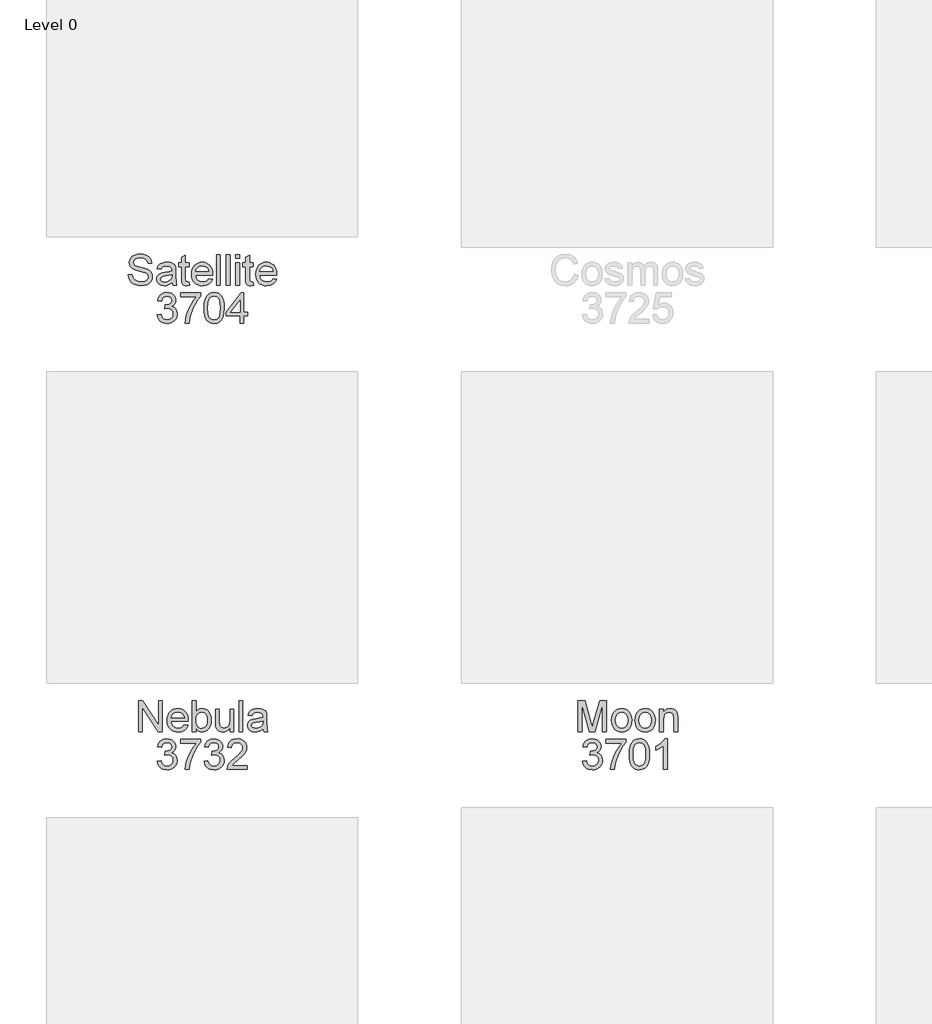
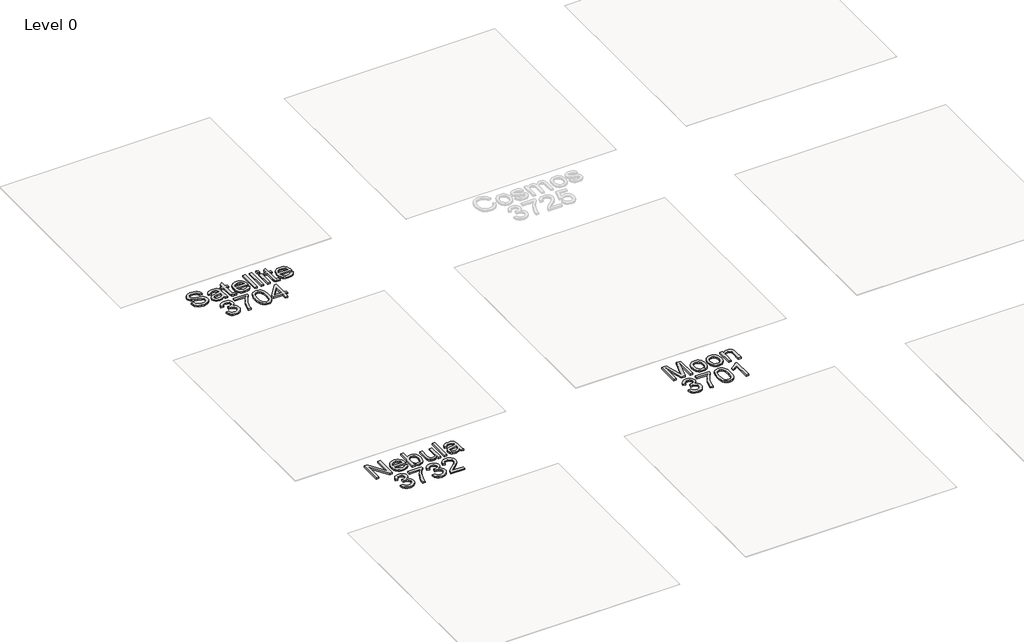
# One storey, part 3 of 14: 3 proxies.
"""IFC4 building model written with IfcOpenShell, lengths in millimetres."""

import ifcopenshell
import ifcopenshell.guid

model = None  # the IFC model being written
_history = None  # IfcOwnerHistory: only IFC2X3 demands one
_inside = {}  # id of a spatial element -> (the spatial element, [elements in it])
_under = {}  # id of a project, library or spatial element -> (it, [spatial elements below it])
_declared = {}  # id of a project -> (the project, [libraries it declares])
_typed = {}  # id of a type object -> (the type object, [elements of that type])
_made_of = {}  # id of a material, layer set ... -> (it, [elements and type objects made of it])


def new_model(schema):
    """Start an empty IFC model of exactly this schema.

    Asked for "IFC4X3", IfcOpenShell would pick the latest addendum, in which some entities
    have other attributes; the version numbers below select the first issue.
    IFC2X3 requires an IfcOwnerHistory on every rooted entity: one is made here for all.
    """
    global model, _history
    if schema == "IFC4X3":
        model = ifcopenshell.file(schema_version=(4, 3, 0, 0))
    else:
        model = ifcopenshell.file(schema=schema)
    _inside.clear()
    _under.clear()
    _declared.clear()
    _typed.clear()
    _made_of.clear()
    _history = None
    if model.schema == "IFC2X3":
        org = make("IfcOrganization", Name="unknown")
        user = make(
            "IfcPersonAndOrganization",
            ThePerson=make("IfcPerson", FamilyName="unknown"),
            TheOrganization=org,
        )
        app = make(
            "IfcApplication",
            ApplicationDeveloper=org,
            Version="unknown",
            ApplicationFullName="unknown",
            ApplicationIdentifier="unknown",
        )
        _history = make(
            "IfcOwnerHistory",
            OwningUser=user,
            OwningApplication=app,
            ChangeAction="ADDED",
            CreationDate=0,
        )
    return model


def make(cls, **values):
    """One entity of the class cls with the attributes given. An attribute that is None is left unset."""
    return model.create_entity(
        cls, **{name: value for name, value in values.items() if value is not None}
    )


def rooted(cls, **values):
    """An entity with a GlobalId (a new one), such as an element, a storey or a relation."""
    return make(cls, GlobalId=ifcopenshell.guid.new(), OwnerHistory=_history, **values)


def si_unit(unit_type, name, prefix=None):
    """IfcSIUnit, for example si_unit("LENGTHUNIT", "METRE", prefix="MILLI")."""
    return make("IfcSIUnit", UnitType=unit_type, Prefix=prefix, Name=name)


def assignment(units):
    """IfcUnitAssignment: the units of a project."""
    return None if units is None else make("IfcUnitAssignment", Units=units)


def point(xyz):
    """IfcCartesianPoint."""
    return None if xyz is None else make("IfcCartesianPoint", Coordinates=xyz)


def direction(xyz):
    """IfcDirection."""
    return None if xyz is None else make("IfcDirection", DirectionRatios=xyz)


def frame(location, z_axis=None, x_axis=None):
    """IfcAxis2Placement3D, a coordinate frame: its origin and axes. An axis left out is left unset."""
    return make(
        "IfcAxis2Placement3D",
        Location=point(location),
        Axis=direction(z_axis),
        RefDirection=direction(x_axis),
    )


def origin():
    """The frame at (0, 0, 0) with its axes left unset."""
    return frame((0.0, 0.0, 0.0))


def origin_with_axes():
    """The frame at (0, 0, 0) with the z axis (0, 0, 1) and the x axis (1, 0, 0) written out."""
    return frame((0.0, 0.0, 0.0), z_axis=(0.0, 0.0, 1.0), x_axis=(1.0, 0.0, 0.0))


def place(relative_to, where):
    """IfcLocalPlacement: puts the frame where relative to a parent placement (None: the world)."""
    return make(
        "IfcLocalPlacement", PlacementRelTo=relative_to, RelativePlacement=where
    )


def context(
    kind, dimensions, precision=None, world=None, true_north=None, identifier=None
):
    """IfcGeometricRepresentationContext, for example the 3D "Model" context."""
    return make(
        "IfcGeometricRepresentationContext",
        ContextIdentifier=identifier,
        ContextType=kind,
        CoordinateSpaceDimension=dimensions,
        Precision=precision,
        WorldCoordinateSystem=world,
        TrueNorth=true_north,
    )


def project(units=None, contexts=None):
    """IfcProject with its units and contexts."""
    return rooted(
        "IfcProject",
        Name="project",
        RepresentationContexts=contexts,
        UnitsInContext=assignment(units),
    )


def spatial(cls, under=None, at=None, **own):
    """A site, building, storey or space (cls), placed at a placement, below another one or the project."""
    s = rooted(cls, ObjectPlacement=at, **own)
    if under is not None:
        _under.setdefault(under.id(), (under, []))[1].append(s)
    return s


def polyline(points):
    """IfcPolyline through the points."""
    return make("IfcPolyline", Points=[point(p) for p in points])


def outline(outer, holes=None, kind="AREA"):
    """IfcArbitraryClosedProfileDef: a profile drawn as a closed curve; with holes, ...WithVoids."""
    if holes is None:
        return make("IfcArbitraryClosedProfileDef", ProfileType=kind, OuterCurve=outer)
    return make(
        "IfcArbitraryProfileDefWithVoids",
        ProfileType=kind,
        OuterCurve=outer,
        InnerCurves=holes,
    )


def extrude(swept, where, along, depth):
    """IfcExtrudedAreaSolid: the profile swept, set in the frame where, extruded along a direction by depth."""
    return make(
        "IfcExtrudedAreaSolid",
        SweptArea=swept,
        Position=where,
        ExtrudedDirection=direction(along),
        Depth=depth,
    )


def shape(context_of_items, identifier, shape_type, items):
    """IfcShapeRepresentation: the items that make up one representation, for example the "Body"."""
    return make(
        "IfcShapeRepresentation",
        ContextOfItems=context_of_items,
        RepresentationIdentifier=identifier,
        RepresentationType=shape_type,
        Items=items,
    )


def made_of(thing, what):
    """Note that an element or type object is made of a material, layer set ...; save() writes the relation."""
    if what is not None:
        _made_of.setdefault(what.id(), (what, []))[1].append(thing)
    return thing


def element(
    cls,
    number,
    at=None,
    inside=None,
    cuts=None,
    type_object=None,
    material=None,
    context=None,
    identifier="Body",
    shape_type=None,
    held_by="IfcProductDefinitionShape",
    body=None,
    shapes=None,
    **own,
):
    """One element of the class cls, such as IfcWall. Its Tag is "e" and its number.

    at: its placement. inside: the storey or other place that contains it. cuts: it is an
    opening in that element (IfcRelVoidsElement). A single representation is given by context,
    identifier, shape_type and body (its items); several are given by shapes. held_by: the class
    of the entity that holds the representations. save() writes the other relations.
    """
    e = rooted(cls, Tag="e%d" % number, ObjectPlacement=at, **own)
    if body is not None:
        shapes = [shape(context, identifier, shape_type, body)]
    if shapes is not None:
        e.Representation = make(held_by, Representations=shapes)
    if inside is not None:
        _inside.setdefault(inside.id(), (inside, []))[1].append(e)
    if cuts is not None:
        rooted(
            "IfcRelVoidsElement", RelatingBuildingElement=cuts, RelatedOpeningElement=e
        )
    if type_object is not None:
        _typed.setdefault(type_object.id(), (type_object, []))[1].append(e)
    return made_of(e, material)


def aggregate(whole, parts):
    """IfcRelAggregates: a whole, such as a stair, and the parts it consists of."""
    return rooted("IfcRelAggregates", RelatingObject=whole, RelatedObjects=parts)


def save(model, path):
    """Write the relations noted so far, then the file.

    IfcRelAggregates (storeys below a building ...), IfcRelContainedInSpatialStructure (elements
    in a storey), IfcRelDefinesByType, IfcRelAssociatesMaterial and IfcRelDeclares: one each for
    every whole, place, type object, material and project.
    """
    for whole, parts in _under.values():
        aggregate(whole, parts)
    for where, things in _inside.values():
        rooted(
            "IfcRelContainedInSpatialStructure",
            RelatedElements=things,
            RelatingStructure=where,
        )
    for kind, things in _typed.values():
        rooted("IfcRelDefinesByType", RelatedObjects=things, RelatingType=kind)
    for what, things in _made_of.values():
        rooted("IfcRelAssociatesMaterial", RelatedObjects=things, RelatingMaterial=what)
    for by, libraries in _declared.values():
        rooted("IfcRelDeclares", RelatingContext=by, RelatedDefinitions=libraries)
    model.write(path)


model = new_model("IFC4")

# Units and contexts
model_context = context("Model", 3, world=origin())
ifc_project = project(units=[si_unit("LENGTHUNIT", "METRE", prefix="MILLI")], contexts=[model_context])

# Site, building, storey
site = spatial("IfcSite", under=ifc_project)
building = spatial("IfcBuilding", under=site)
storey = spatial("IfcBuildingStorey", under=building, Name="Level 0", Elevation=0.0)

# Proxies
placement = place(None, origin())
element("IfcBuildingElementProxy", 1, Name="300mm Arial", ObjectType="300mm Arial", at=placement, inside=storey, context=model_context, shape_type="SweptSolid", body=[
    extrude(outline(polyline([(-8663.1137264, -10635.6345563), (-8626.1906494, -10635.6345563), (-8621.9538706, -10656.12434), (-8614.291611, -10672.5936909), (-8602.338486, -10685.6646044), (-8585.229111, -10695.9590755), (-8564.3156494, -10702.638763), (-8540.9502648, -10704.8653255), (-8520.3793514, -10703.1796284), (-8502.368534, -10698.1225371), (-8487.7741831, -10690.1177294), (-8477.4526687, -10679.5888832), (-8471.3138465, -10667.5005419), (-8469.2675725, -10654.8172486), (-8470.8000244, -10642.4584746), (-8475.3973802, -10631.7763832), (-8484.7363225, -10622.6628015), (-8500.493534, -10615.0095563), (-8554.2555533, -10600.9109986), (-8589.5470196, -10591.5810707), (-8612.1281494, -10582.701864), (-8630.5085581, -10570.279989), (-8643.5343994, -10555.2259025), (-8651.2958177, -10537.8641236), (-8653.8829571, -10518.5191717), (-8650.6828369, -10496.8935707), (-8641.0824764, -10476.7283063), (-8625.3342792, -10459.6369602), (-8603.6906494, -10447.233114), (-8577.7110821, -10439.6880419), (-8548.9550725, -10437.1730179), (-8517.8012264, -10439.8052294), (-8490.541611, -10447.701864), (-8468.149784, -10460.7006621), (-8451.5993033, -10478.639364), (-8441.1245437, -10500.4001813), (-8436.9598802, -10524.8653255), (-8473.8829571, -10524.8653255), (-8480.6618033, -10502.8340755), (-8494.7964187, -10486.9326332), (-8516.8817552, -10477.3052294), (-8547.5127648, -10474.0960948), (-8578.8649283, -10477.2691717), (-8600.3733417, -10486.7884025), (-8612.8132456, -10500.7968159), (-8616.9598802, -10517.4374409), (-8614.0211783, -10531.6261429), (-8605.2050725, -10543.0384025), (-8584.3637264, -10553.2427294), (-8544.916611, -10563.6634025), (-8479.5800725, -10582.1970563), (-8458.5313946, -10595.592489), (-8443.8468994, -10612.1249409), (-8435.2200965, -10631.6141236), (-8432.3444956, -10653.8797486), (-8435.6527889, -10676.6411669), (-8445.5776687, -10698.0504217), (-8461.713486, -10716.4759025), (-8483.6545917, -10730.2859986), (-8510.0398081, -10738.9128015), (-8539.5079571, -10741.7884025), (-8575.6828369, -10738.6874409), (-8605.4574764, -10729.3845563), (-8629.1744235, -10713.8436909), (-8647.1762264, -10692.0287871), (-8658.7327167, -10665.4542679), (-8663.1137264, -10635.6345563)])), origin_with_axes(), (0.0, 0.0, 1.0), 20.0),
    extrude(outline(polyline([(-8243.1137264, -10709.4807102), (-8260.7549523, -10724.6069121), (-8278.9190148, -10734.5047486), (-8298.0205773, -10739.967489), (-8318.4743033, -10741.7884025), (-8349.3306735, -10737.4073929), (-8372.0920917, -10724.264364), (-8386.1275485, -10704.3064313), (-8390.806034, -10679.4807102), (-8389.0392071, -10664.1742198), (-8383.7387264, -10650.2739794), (-8375.5626446, -10638.3749409), (-8365.1690148, -10629.0720563), (-8339.3156494, -10616.9566717), (-8307.368534, -10611.4037871), (-8269.6161302, -10605.5624409), (-8243.3300725, -10598.7114794), (-8243.1137264, -10590.4903255), (-8245.6557937, -10574.0119602), (-8253.2819956, -10563.2307102), (-8270.337284, -10555.2259025), (-8294.0993033, -10552.5576332), (-8316.0944956, -10554.3334746), (-8331.4550725, -10559.6609986), (-8341.9298321, -10569.513763), (-8349.2675725, -10584.8653255), (-8386.1906494, -10580.2499409), (-8379.7813946, -10560.0576332), (-8370.2170917, -10544.1922486), (-8356.6053129, -10532.0588352), (-8338.0536302, -10523.0624409), (-8315.3643273, -10517.4915275), (-8289.3396879, -10515.6345563), (-8264.3787504, -10517.2751813), (-8244.5920917, -10522.1970563), (-8229.6732215, -10529.5978977), (-8219.3156494, -10538.6754217), (-8212.446659, -10549.8983784), (-8207.993534, -10563.7355179), (-8206.1906494, -10596.0432102), (-8206.1906494, -10641.9807102), (-8204.3156494, -10706.1273448), (-8196.9598802, -10737.1730179), (-8233.8829571, -10737.1730179), (-8243.1137264, -10709.4807102)]), holes=[polyline([(-8243.1137264, -10635.6345563), (-8302.681034, -10646.9566717), (-8334.447861, -10652.9422486), (-8348.8348802, -10662.6778255), (-8353.8829571, -10676.8845563), (-8351.1335581, -10687.8641236), (-8342.885361, -10696.8605179), (-8329.3186542, -10702.8641236), (-8310.6137264, -10704.8653255), (-8290.7819956, -10702.6567919), (-8273.2579571, -10696.0311909), (-8259.0512264, -10686.2685707), (-8249.1714187, -10674.6489794), (-8244.790409, -10662.6778255), (-8243.3300725, -10646.0912871), (-8243.1137264, -10635.6345563)])]), origin_with_axes(), (0.0, 0.0, 1.0), 20.0),
    extrude(outline(polyline([(-8076.9598802, -10706.3797486), (-8072.3444956, -10738.2547486), (-8099.9646879, -10741.7884025), (-8117.6870437, -10740.2559505), (-8130.9021879, -10735.6585948), (-8140.2411302, -10728.5732582), (-8146.3348802, -10719.576864), (-8149.6882456, -10704.1261429), (-8150.806034, -10677.6778255), (-8150.806034, -10557.1730179), (-8178.4983417, -10557.1730179), (-8178.4983417, -10520.2499409), (-8150.806034, -10520.2499409), (-8150.806034, -10467.5335948), (-8113.8829571, -10445.826864), (-8113.8829571, -10520.2499409), (-8076.9598802, -10520.2499409), (-8076.9598802, -10557.1730179), (-8113.8829571, -10557.1730179), (-8113.8829571, -10676.5960948), (-8111.9358417, -10695.6345563), (-8105.6257456, -10702.3773448), (-8093.041611, -10704.8653255), (-8076.9598802, -10706.3797486)])), origin_with_axes(), (0.0, 0.0, 1.0), 20.0),
    extrude(outline(polyline([(-7888.1618033, -10672.5576332), (-7851.9598802, -10677.1730179), (-7865.0037504, -10704.4506621), (-7885.8180533, -10724.8412871), (-7913.9340389, -10737.5516236), (-7948.8829571, -10741.7884025), (-7971.7931134, -10739.9607282), (-7992.2062744, -10734.4777054), (-8010.1224403, -10725.339334), (-8025.541611, -10712.545614), (-8037.9409499, -10696.4526152), (-8046.7976206, -10677.4164073), (-8052.111623, -10655.4369902), (-8053.8829571, -10630.514364), (-8052.0935941, -10604.7466356), (-8046.7255052, -10582.0347967), (-8037.7786903, -10562.3788472), (-8025.2531494, -10545.7787871), (-8009.8745437, -10532.5906861), (-7992.368534, -10523.170614), (-7972.7351206, -10517.5185707), (-7950.9743033, -10515.6345563), (-7929.9143574, -10517.5140635), (-7910.869135, -10523.1525852), (-7893.8386362, -10532.5501212), (-7878.822861, -10545.7066717), (-7866.5654992, -10562.2706741), (-7857.8102408, -10581.8905659), (-7852.5570857, -10604.5663472), (-7850.806034, -10630.2980179), (-7851.0223802, -10640.2499409), (-8016.9598802, -10640.2499409), (-8010.5686542, -10667.8881621), (-7995.7218994, -10688.2066717), (-7974.2946158, -10700.7006621), (-7948.1618033, -10704.8653255), (-7928.510361, -10702.936239), (-7911.9598802, -10697.1489794), (-7898.510361, -10687.1429698), (-7888.1618033, -10672.5576332)]), holes=[polyline([(-8016.9598802, -10603.326864), (-7887.729111, -10603.326864), (-7892.7231014, -10583.8196525), (-7902.5127648, -10569.8653255), (-7924.0392071, -10556.8845563), (-7951.118534, -10552.5576332), (-7976.0073562, -10556.0101573), (-7996.587284, -10566.3677294), (-8010.8931735, -10582.5125611), (-8016.9598802, -10603.326864)])]), origin_with_axes(), (0.0, 0.0, 1.0), 20.0),
    extrude(outline(polyline([(-7813.8829571, -10737.1730179), (-7813.8829571, -10441.7884025), (-7776.9598802, -10441.7884025), (-7776.9598802, -10737.1730179), (-7813.8829571, -10737.1730179)])), origin_with_axes(), (0.0, 0.0, 1.0), 20.0),
    extrude(outline(polyline([(-7721.5752648, -10737.1730179), (-7721.5752648, -10441.7884025), (-7684.6521879, -10441.7884025), (-7684.6521879, -10737.1730179), (-7721.5752648, -10737.1730179)])), origin_with_axes(), (0.0, 0.0, 1.0), 20.0),
    extrude(outline(polyline([(-7629.2675725, -10478.7114794), (-7629.2675725, -10441.7884025), (-7592.3444956, -10441.7884025), (-7592.3444956, -10478.7114794), (-7629.2675725, -10478.7114794)])), origin_with_axes(), (0.0, 0.0, 1.0), 20.0),
    extrude(outline(polyline([(-7629.2675725, -10737.1730179), (-7629.2675725, -10520.2499409), (-7592.3444956, -10520.2499409), (-7592.3444956, -10737.1730179), (-7629.2675725, -10737.1730179)])), origin_with_axes(), (0.0, 0.0, 1.0), 20.0),
    extrude(outline(polyline([(-7458.4983417, -10706.3797486), (-7453.8829571, -10738.2547486), (-7481.5031494, -10741.7884025), (-7499.2255052, -10740.2559505), (-7512.4406494, -10735.6585948), (-7521.7795917, -10728.5732582), (-7527.8733417, -10719.576864), (-7531.2267071, -10704.1261429), (-7532.3444956, -10677.6778255), (-7532.3444956, -10557.1730179), (-7560.0368033, -10557.1730179), (-7560.0368033, -10520.2499409), (-7532.3444956, -10520.2499409), (-7532.3444956, -10467.5335948), (-7495.4214187, -10445.826864), (-7495.4214187, -10520.2499409), (-7458.4983417, -10520.2499409), (-7458.4983417, -10557.1730179), (-7495.4214187, -10557.1730179), (-7495.4214187, -10676.5960948), (-7493.4743033, -10695.6345563), (-7487.1642071, -10702.3773448), (-7474.5800725, -10704.8653255), (-7458.4983417, -10706.3797486)])), origin_with_axes(), (0.0, 0.0, 1.0), 20.0),
    extrude(outline(polyline([(-7269.7002648, -10672.5576332), (-7233.4983417, -10677.1730179), (-7246.5422119, -10704.4506621), (-7267.3565148, -10724.8412871), (-7295.4725004, -10737.5516236), (-7330.4214187, -10741.7884025), (-7353.3315749, -10739.9607282), (-7373.744736, -10734.4777054), (-7391.6609018, -10725.339334), (-7407.0800725, -10712.545614), (-7419.4794114, -10696.4526152), (-7428.3360821, -10677.4164073), (-7433.6500845, -10655.4369902), (-7435.4214187, -10630.514364), (-7433.6320557, -10604.7466356), (-7428.2639667, -10582.0347967), (-7419.3171518, -10562.3788472), (-7406.791611, -10545.7787871), (-7391.4130052, -10532.5906861), (-7373.9069956, -10523.170614), (-7354.2735821, -10517.5185707), (-7332.5127648, -10515.6345563), (-7311.4528189, -10517.5140635), (-7292.4075965, -10523.1525852), (-7275.3770977, -10532.5501212), (-7260.3613225, -10545.7066717), (-7248.1039607, -10562.2706741), (-7239.3487023, -10581.8905659), (-7234.0955473, -10604.5663472), (-7232.3444956, -10630.2980179), (-7232.5608417, -10640.2499409), (-7398.4983417, -10640.2499409), (-7392.1071158, -10667.8881621), (-7377.260361, -10688.2066717), (-7355.8330773, -10700.7006621), (-7329.7002648, -10704.8653255), (-7310.0488225, -10702.936239), (-7293.4983417, -10697.1489794), (-7280.0488225, -10687.1429698), (-7269.7002648, -10672.5576332)]), holes=[polyline([(-7398.4983417, -10603.326864), (-7269.2675725, -10603.326864), (-7274.2615629, -10583.8196525), (-7284.0512264, -10569.8653255), (-7305.5776687, -10556.8845563), (-7332.6569956, -10552.5576332), (-7357.5458177, -10556.0101573), (-7378.1257456, -10566.3677294), (-7392.431635, -10582.5125611), (-7398.4983417, -10603.326864)])]), origin_with_axes(), (0.0, 0.0, 1.0), 20.0),
    extrude(outline(polyline([(-8386.1906494, -11023.326864), (-8349.2675725, -11018.7114794), (-8341.0013465, -11041.9146044), (-8328.8949764, -11057.5816717), (-8312.35351, -11066.5059505), (-8290.7819956, -11069.4807102), (-8265.4694956, -11065.3881621), (-8245.9262264, -11053.1105179), (-8233.432236, -11034.7932102), (-8229.2675725, -11012.5816717), (-8233.3961783, -10991.4969361), (-8245.7819956, -10974.3965755), (-8264.5319956, -10963.0654457), (-8287.7531494, -10959.2884025), (-8313.6425725, -10963.326864), (-8309.5319956, -10926.4037871), (-8303.618534, -10926.8364794), (-8281.4971398, -10924.186239), (-8261.7194956, -10916.2355179), (-8247.7651687, -10902.7859986), (-8243.1137264, -10883.639364), (-8246.4851206, -10867.6928496), (-8256.5993033, -10854.7571525), (-8272.0319956, -10846.1844361), (-8291.3589187, -10843.326864), (-8310.7218994, -10846.2114794), (-8326.5512264, -10854.8653255), (-8338.1077167, -10869.2884025), (-8344.6521879, -10889.4807102), (-8381.5752648, -10884.8653255), (-8370.7038706, -10851.7102775), (-8351.3589187, -10826.9566717), (-8324.8925725, -10811.5420082), (-8292.6569956, -10806.4037871), (-8269.4448562, -10808.93684), (-8248.1257456, -10816.5359986), (-8230.150986, -10828.5251813), (-8216.9718994, -10844.2283063), (-8208.8859619, -10862.3202534), (-8206.1906494, -10881.4759025), (-8208.7507456, -10899.3244602), (-8216.431034, -10915.514364), (-8229.1233417, -10929.3064313), (-8246.7194956, -10939.9614794), (-8223.6065148, -10949.3004217), (-8206.479111, -10965.201864), (-8195.8781494, -10986.8004217), (-8192.3444956, -11013.2307102), (-8194.1113225, -11031.9626813), (-8199.4118033, -11049.2162871), (-8208.2459379, -11064.9915275), (-8220.6137264, -11079.2884025), (-8235.6813345, -11091.1513832), (-8252.6149283, -11099.6249409), (-8271.4145076, -11104.7090755), (-8292.0800725, -11106.4037871), (-8327.7771879, -11100.6165275), (-8343.1377648, -11093.3824529), (-8356.8396879, -11083.2547486), (-8368.3285701, -11070.8283664), (-8377.0500244, -11056.6982582), (-8386.1906494, -11023.326864)])), origin_with_axes(), (0.0, 0.0, 1.0), 20.0),
    extrude(outline(polyline([(-8160.0368033, -10847.9422486), (-8160.0368033, -10811.0191717), (-7966.1906494, -10811.0191717), (-7966.1906494, -10840.8749409), (-7993.8198562, -10875.841888), (-8021.1786302, -10920.3100371), (-8045.3102408, -10970.2228977), (-8063.2579571, -11021.5239794), (-8072.056034, -11059.9073929), (-8076.9598802, -11101.7884025), (-8113.8829571, -11101.7884025), (-8109.8895677, -11063.7295082), (-8099.2074764, -11018.4951332), (-8082.1251446, -10970.5474169), (-8058.931034, -10924.3484986), (-8031.8517071, -10882.5846765), (-8003.1137264, -10847.9422486), (-8160.0368033, -10847.9422486)])), origin_with_axes(), (0.0, 0.0, 1.0), 20.0),
    extrude(outline(polyline([(-7933.8829571, -10956.4759025), (-7931.1696158, -10909.1952534), (-7923.0295917, -10871.4879217), (-7909.5440148, -10842.7769842), (-7890.7940148, -10822.4855179), (-7866.6443754, -10810.4242198), (-7836.9598802, -10806.4037871), (-7814.2074764, -10808.7835948), (-7793.8348802, -10815.9230179), (-7776.7976206, -10827.5426092), (-7764.0512264, -10843.3629217), (-7754.4238225, -10863.248739), (-7746.743534, -10887.0648448), (-7741.713486, -10917.3082342), (-7740.0368033, -10956.4759025), (-7742.7231014, -11003.4861188), (-7750.7819956, -11041.1033063), (-7764.1864427, -11069.8412871), (-7782.9093994, -11090.2138832), (-7807.1131254, -11102.3563111), (-7836.9598802, -11106.4037871), (-7857.2964187, -11104.6459746), (-7875.3252648, -11099.3725371), (-7891.0464187, -11090.5834746), (-7904.4598802, -11078.2787871), (-7917.3324764, -11056.0356981), (-7926.5271879, -11028.3208544), (-7932.0440148, -10995.1342558), (-7933.8829571, -10956.4759025)]), holes=[polyline([(-7896.9598802, -10956.4037871), (-7892.6329571, -11014.483715), (-7887.2243033, -11034.3492498), (-7879.6521879, -11048.0984986), (-7860.3252648, -11064.1351573), (-7836.9598802, -11069.4807102), (-7813.5944956, -11064.1171284), (-7794.2675725, -11048.0263832), (-7786.6954571, -11034.2545984), (-7781.2868033, -11014.3935707), (-7776.9598802, -10956.4037871), (-7781.1425725, -10899.6309505), (-7786.3709379, -10879.8307703), (-7793.6906494, -10865.7547486), (-7812.9815148, -10848.9338352), (-7837.3925725, -10843.326864), (-7860.5055533, -10848.2667679), (-7879.0752648, -10863.0864794), (-7886.899784, -10878.4109986), (-7892.4887264, -10899.0720563), (-7896.9598802, -10956.4037871)])]), origin_with_axes(), (0.0, 0.0, 1.0), 20.0),
    extrude(outline(polyline([(-7587.729111, -11101.7884025), (-7587.729111, -11032.5576332), (-7721.5752648, -11032.5576332), (-7721.5752648, -10995.6345563), (-7578.4983417, -10811.0191717), (-7550.806034, -10811.0191717), (-7550.806034, -10995.6345563), (-7513.8829571, -10995.6345563), (-7513.8829571, -11032.5576332), (-7550.806034, -11032.5576332), (-7550.806034, -11101.7884025), (-7587.729111, -11101.7884025)]), holes=[polyline([(-7587.729111, -10995.6345563), (-7587.729111, -10881.5480179), (-7676.1425725, -10995.6345563), (-7587.729111, -10995.6345563)])]), origin_with_axes(), (0.0, 0.0, 1.0), 20.0),
])
element("IfcBuildingElementProxy", 2, Name="300mm Arial", ObjectType="300mm Arial", at=placement, inside=storey, context=model_context, shape_type="SweptSolid", body=[
    extrude(outline(polyline([(-8566.1906494, -15037.1730179), (-8566.1906494, -14741.7884025), (-8526.6714187, -14741.7884025), (-8372.3444956, -14975.8028255), (-8372.3444956, -14741.7884025), (-8335.4214187, -14741.7884025), (-8335.4214187, -15037.1730179), (-8374.9406494, -15037.1730179), (-8529.2675725, -14803.0864794), (-8529.2675725, -15037.1730179), (-8566.1906494, -15037.1730179)])), origin_with_axes(), (0.0, 0.0, 1.0), 20.0),
    extrude(outline(polyline([(-8123.5464187, -14972.5576332), (-8087.3444956, -14977.1730179), (-8100.3883658, -15004.4506621), (-8121.2026687, -15024.8412871), (-8149.3186542, -15037.5516236), (-8184.2675725, -15041.7884025), (-8207.1777288, -15039.9607282), (-8227.5908898, -15034.4777054), (-8245.5070557, -15025.339334), (-8260.9262264, -15012.545614), (-8273.3255653, -14996.4526152), (-8282.182236, -14977.4164073), (-8287.4962384, -14955.4369902), (-8289.2675725, -14930.514364), (-8287.4782095, -14904.7466356), (-8282.1101206, -14882.0347967), (-8273.1633057, -14862.3788472), (-8260.6377648, -14845.7787871), (-8245.259159, -14832.5906861), (-8227.7531494, -14823.170614), (-8208.119736, -14817.5185707), (-8186.3589187, -14815.6345563), (-8165.2989727, -14817.5140635), (-8146.2537504, -14823.1525852), (-8129.2232516, -14832.5501212), (-8114.2074764, -14845.7066717), (-8101.9501146, -14862.2706741), (-8093.1948562, -14881.8905659), (-8087.9417011, -14904.5663472), (-8086.1906494, -14930.2980179), (-8086.4069956, -14940.2499409), (-8252.3444956, -14940.2499409), (-8245.9532696, -14967.8881621), (-8231.1065148, -14988.2066717), (-8209.6792312, -15000.7006621), (-8183.5464187, -15004.8653255), (-8163.8949764, -15002.936239), (-8147.3444956, -14997.1489794), (-8133.8949764, -14987.1429698), (-8123.5464187, -14972.5576332)]), holes=[polyline([(-8252.3444956, -14903.326864), (-8123.1137264, -14903.326864), (-8128.1077167, -14883.8196525), (-8137.8973802, -14869.8653255), (-8159.4238225, -14856.8845563), (-8186.5031494, -14852.5576332), (-8211.3919715, -14856.0101573), (-8231.9718994, -14866.3677294), (-8246.2777889, -14882.5125611), (-8252.3444956, -14903.326864)])]), origin_with_axes(), (0.0, 0.0, 1.0), 20.0),
    extrude(outline(polyline([(-8012.3444956, -15037.1730179), (-8049.2675725, -15037.1730179), (-8049.2675725, -14741.7884025), (-8012.3444956, -14741.7884025), (-8012.3444956, -14851.3316717), (-8000.2020677, -14835.7141837), (-7986.4911302, -14824.5588352), (-7971.2116831, -14817.865626), (-7954.3637264, -14815.6345563), (-7935.3432937, -14817.6447727), (-7917.368534, -14823.6754217), (-7901.4670917, -14833.3478977), (-7888.666611, -14846.2835948), (-7878.6335581, -14862.3563111), (-7871.0343994, -14881.4398448), (-7866.2477408, -14902.7409265), (-7864.6521879, -14925.4662871), (-7866.3040809, -14951.6892438), (-7871.25976, -14974.7571525), (-7879.5192252, -14994.670013), (-7891.0824764, -15011.4278255), (-7904.9624343, -15024.7105779), (-7920.1720196, -15034.1982582), (-7936.7112324, -15039.8908664), (-7954.5800725, -15041.7884025), (-7971.9824163, -15039.3409866), (-7987.4106014, -15031.998739), (-8000.8646278, -15019.7616597), (-8012.3444956, -15002.6297486), (-8012.3444956, -15037.1730179)]), holes=[polyline([(-8012.3444956, -14927.1970563), (-8009.8204571, -14957.9903255), (-8002.2483417, -14978.8316717), (-7993.3015268, -14990.2213953), (-7982.9033898, -14998.3569121), (-7971.0539307, -15003.2382222), (-7957.7531494, -15004.8653255), (-7936.4430533, -15000.0696525), (-7918.2339187, -14985.6826332), (-7905.7399283, -14961.7944121), (-7901.5752648, -14928.4951332), (-7905.5686542, -14894.7090755), (-7917.5488225, -14871.0912871), (-7935.1900485, -14857.1910467), (-7956.166611, -14852.5576332), (-7977.4767071, -14857.3533063), (-7995.6858417, -14871.7403255), (-8008.1798321, -14895.1958544), (-8012.3444956, -14927.1970563)])]), origin_with_axes(), (0.0, 0.0, 1.0), 20.0),
    extrude(outline(polyline([(-7684.6521879, -15037.1730179), (-7684.6521879, -14999.889364), (-7698.0115629, -15018.2201933), (-7713.5704571, -15031.3136429), (-7731.3288706, -15039.1697126), (-7751.2868033, -15041.7884025), (-7769.2705773, -15039.9494602), (-7786.010361, -15034.4326332), (-7800.0548321, -15026.139364), (-7809.9526687, -15015.9710948), (-7820.9502648, -14988.7835948), (-7823.1137264, -14954.4566717), (-7823.1137264, -14820.2499409), (-7786.1906494, -14820.2499409), (-7786.1906494, -14937.076864), (-7783.9550725, -14974.7210948), (-7778.5734619, -14987.2781861), (-7769.3517071, -14996.8244602), (-7756.9027889, -15002.8551092), (-7741.8396879, -15004.8653255), (-7725.9112023, -15002.8100371), (-7711.010361, -14996.6441717), (-7698.7237023, -14986.935638), (-7690.6377648, -14974.2523448), (-7686.1485821, -14956.8815515), (-7684.6521879, -14933.1105179), (-7684.6521879, -14820.2499409), (-7647.729111, -14820.2499409), (-7647.729111, -15037.1730179), (-7684.6521879, -15037.1730179)])), origin_with_axes(), (0.0, 0.0, 1.0), 20.0),
    extrude(outline(polyline([(-7596.9598802, -15037.1730179), (-7596.9598802, -14741.7884025), (-7560.0368033, -14741.7884025), (-7560.0368033, -15037.1730179), (-7596.9598802, -15037.1730179)])), origin_with_axes(), (0.0, 0.0, 1.0), 20.0),
    extrude(outline(polyline([(-7366.1906494, -15009.4807102), (-7383.8318754, -15024.6069121), (-7401.9959379, -15034.5047486), (-7421.0975004, -15039.967489), (-7441.5512264, -15041.7884025), (-7472.4075965, -15037.4073929), (-7495.1690148, -15024.264364), (-7509.2044715, -15004.3064313), (-7513.8829571, -14979.4807102), (-7512.1161302, -14964.1742198), (-7506.8156494, -14950.2739794), (-7498.6395677, -14938.3749409), (-7488.2459379, -14929.0720563), (-7462.3925725, -14916.9566717), (-7430.4454571, -14911.4037871), (-7392.6930533, -14905.5624409), (-7366.4069956, -14898.7114794), (-7366.1906494, -14890.4903255), (-7368.7327167, -14874.0119602), (-7376.3589187, -14863.2307102), (-7393.4142071, -14855.2259025), (-7417.1762264, -14852.5576332), (-7439.1714187, -14854.3334746), (-7454.5319956, -14859.6609986), (-7465.0067552, -14869.513763), (-7472.3444956, -14884.8653255), (-7509.2675725, -14880.2499409), (-7502.8583177, -14860.0576332), (-7493.2940148, -14844.1922486), (-7479.682236, -14832.0588352), (-7461.1305533, -14823.0624409), (-7438.4412504, -14817.4915275), (-7412.416611, -14815.6345563), (-7387.4556735, -14817.2751813), (-7367.6690148, -14822.1970563), (-7352.7501446, -14829.5978977), (-7342.3925725, -14838.6754217), (-7335.5235821, -14849.8983784), (-7331.0704571, -14863.7355179), (-7329.2675725, -14896.0432102), (-7329.2675725, -14941.9807102), (-7327.3925725, -15006.1273448), (-7320.0368033, -15037.1730179), (-7356.9598802, -15037.1730179), (-7366.1906494, -15009.4807102)]), holes=[polyline([(-7366.1906494, -14935.6345563), (-7425.7579571, -14946.9566717), (-7457.524784, -14952.9422486), (-7471.9118033, -14962.6778255), (-7476.9598802, -14976.8845563), (-7474.2104812, -14987.8641236), (-7465.962284, -14996.8605179), (-7452.3955773, -15002.8641236), (-7433.6906494, -15004.8653255), (-7413.8589187, -15002.6567919), (-7396.3348802, -14996.0311909), (-7382.1281494, -14986.2685707), (-7372.2483417, -14974.6489794), (-7367.8673321, -14962.6778255), (-7366.4069956, -14946.0912871), (-7366.1906494, -14935.6345563)])]), origin_with_axes(), (0.0, 0.0, 1.0), 20.0),
    extrude(outline(polyline([(-8386.1906494, -15323.326864), (-8349.2675725, -15318.7114794), (-8341.0013465, -15341.9146044), (-8328.8949764, -15357.5816717), (-8312.35351, -15366.5059505), (-8290.7819956, -15369.4807102), (-8265.4694956, -15365.3881621), (-8245.9262264, -15353.1105179), (-8233.432236, -15334.7932102), (-8229.2675725, -15312.5816717), (-8233.3961783, -15291.4969361), (-8245.7819956, -15274.3965755), (-8264.5319956, -15263.0654457), (-8287.7531494, -15259.2884025), (-8313.6425725, -15263.326864), (-8309.5319956, -15226.4037871), (-8303.618534, -15226.8364794), (-8281.4971398, -15224.186239), (-8261.7194956, -15216.2355179), (-8247.7651687, -15202.7859986), (-8243.1137264, -15183.639364), (-8246.4851206, -15167.6928496), (-8256.5993033, -15154.7571525), (-8272.0319956, -15146.1844361), (-8291.3589187, -15143.326864), (-8310.7218994, -15146.2114794), (-8326.5512264, -15154.8653255), (-8338.1077167, -15169.2884025), (-8344.6521879, -15189.4807102), (-8381.5752648, -15184.8653255), (-8370.7038706, -15151.7102775), (-8351.3589187, -15126.9566717), (-8324.8925725, -15111.5420082), (-8292.6569956, -15106.4037871), (-8269.4448562, -15108.93684), (-8248.1257456, -15116.5359986), (-8230.150986, -15128.5251813), (-8216.9718994, -15144.2283063), (-8208.8859619, -15162.3202534), (-8206.1906494, -15181.4759025), (-8208.7507456, -15199.3244602), (-8216.431034, -15215.514364), (-8229.1233417, -15229.3064313), (-8246.7194956, -15239.9614794), (-8223.6065148, -15249.3004217), (-8206.479111, -15265.201864), (-8195.8781494, -15286.8004217), (-8192.3444956, -15313.2307102), (-8194.1113225, -15331.9626813), (-8199.4118033, -15349.2162871), (-8208.2459379, -15364.9915275), (-8220.6137264, -15379.2884025), (-8235.6813345, -15391.1513832), (-8252.6149283, -15399.6249409), (-8271.4145076, -15404.7090755), (-8292.0800725, -15406.4037871), (-8327.7771879, -15400.6165275), (-8343.1377648, -15393.3824529), (-8356.8396879, -15383.2547486), (-8368.3285701, -15370.8283664), (-8377.0500244, -15356.6982582), (-8386.1906494, -15323.326864)])), origin_with_axes(), (0.0, 0.0, 1.0), 20.0),
    extrude(outline(polyline([(-8160.0368033, -15147.9422486), (-8160.0368033, -15111.0191717), (-7966.1906494, -15111.0191717), (-7966.1906494, -15140.8749409), (-7993.8198562, -15175.841888), (-8021.1786302, -15220.3100371), (-8045.3102408, -15270.2228977), (-8063.2579571, -15321.5239794), (-8072.056034, -15359.9073929), (-8076.9598802, -15401.7884025), (-8113.8829571, -15401.7884025), (-8109.8895677, -15363.7295082), (-8099.2074764, -15318.4951332), (-8082.1251446, -15270.5474169), (-8058.931034, -15224.3484986), (-8031.8517071, -15182.5846765), (-8003.1137264, -15147.9422486), (-8160.0368033, -15147.9422486)])), origin_with_axes(), (0.0, 0.0, 1.0), 20.0),
    extrude(outline(polyline([(-7933.8829571, -15323.326864), (-7896.9598802, -15318.7114794), (-7888.6936542, -15341.9146044), (-7876.587284, -15357.5816717), (-7860.0458177, -15366.5059505), (-7838.4743033, -15369.4807102), (-7813.1618033, -15365.3881621), (-7793.618534, -15353.1105179), (-7781.1245437, -15334.7932102), (-7776.9598802, -15312.5816717), (-7781.088486, -15291.4969361), (-7793.4743033, -15274.3965755), (-7812.2243033, -15263.0654457), (-7835.4454571, -15259.2884025), (-7861.3348802, -15263.326864), (-7857.2243033, -15226.4037871), (-7851.3108417, -15226.8364794), (-7829.1894475, -15224.186239), (-7809.4118033, -15216.2355179), (-7795.4574764, -15202.7859986), (-7790.806034, -15183.639364), (-7794.1774283, -15167.6928496), (-7804.291611, -15154.7571525), (-7819.7243033, -15146.1844361), (-7839.0512264, -15143.326864), (-7858.4142071, -15146.2114794), (-7874.243534, -15154.8653255), (-7885.8000244, -15169.2884025), (-7892.3444956, -15189.4807102), (-7929.2675725, -15184.8653255), (-7918.3961783, -15151.7102775), (-7899.0512264, -15126.9566717), (-7872.5848802, -15111.5420082), (-7840.3493033, -15106.4037871), (-7817.1371639, -15108.93684), (-7795.8180533, -15116.5359986), (-7777.8432937, -15128.5251813), (-7764.6642071, -15144.2283063), (-7756.5782696, -15162.3202534), (-7753.8829571, -15181.4759025), (-7756.4430533, -15199.3244602), (-7764.1233417, -15215.514364), (-7776.8156494, -15229.3064313), (-7794.4118033, -15239.9614794), (-7771.2988225, -15249.3004217), (-7754.1714187, -15265.201864), (-7743.5704571, -15286.8004217), (-7740.0368033, -15313.2307102), (-7741.8036302, -15331.9626813), (-7747.104111, -15349.2162871), (-7755.9382456, -15364.9915275), (-7768.306034, -15379.2884025), (-7783.3736422, -15391.1513832), (-7800.307236, -15399.6249409), (-7819.1068153, -15404.7090755), (-7839.7723802, -15406.4037871), (-7875.4694956, -15400.6165275), (-7890.8300725, -15393.3824529), (-7904.5319956, -15383.2547486), (-7916.0208778, -15370.8283664), (-7924.7423321, -15356.6982582), (-7933.8829571, -15323.326864)])), origin_with_axes(), (0.0, 0.0, 1.0), 20.0),
    extrude(outline(polyline([(-7518.4983417, -15364.8653255), (-7518.4983417, -15401.7884025), (-7712.3444956, -15401.7884025), (-7708.3781494, -15376.3316717), (-7699.2735821, -15356.43684), (-7685.9502648, -15337.1369602), (-7666.6774283, -15316.935638), (-7639.7243033, -15294.3364794), (-7599.8805533, -15258.9458544), (-7575.9743033, -15232.8220563), (-7564.0211783, -15211.6201332), (-7560.0368033, -15190.9951332), (-7563.7958177, -15172.5065515), (-7575.072861, -15157.1369602), (-7592.4075965, -15146.779388), (-7614.3396879, -15143.326864), (-7637.3715389, -15146.6982582), (-7655.2651687, -15156.8124409), (-7666.8126446, -15172.8761429), (-7670.806034, -15194.0960948), (-7707.729111, -15189.4807102), (-7698.7777889, -15153.7655659), (-7690.4011362, -15139.5182703), (-7679.4238225, -15127.6778255), (-7666.0982516, -15118.3704337), (-7650.6768273, -15111.7222967), (-7613.5464187, -15106.4037871), (-7593.7575064, -15107.8821525), (-7576.1455773, -15112.3172486), (-7560.7106314, -15119.7090755), (-7547.4526687, -15130.0576332), (-7536.8043814, -15142.5966957), (-7529.1984619, -15156.5600371), (-7524.6349102, -15171.9476573), (-7523.1137264, -15188.7595563), (-7524.7543514, -15206.4188111), (-7529.6762264, -15223.7715755), (-7538.4112023, -15241.4218159), (-7551.4911302, -15259.9734986), (-7572.3414908, -15282.1219361), (-7604.3877648, -15310.5624409), (-7646.8637264, -15346.0792679), (-7663.5223802, -15364.8653255), (-7518.4983417, -15364.8653255)])), origin_with_axes(), (0.0, 0.0, 1.0), 20.0),
])
element("IfcBuildingElementProxy", 3, Name="300mm Arial", ObjectType="300mm Arial", at=placement, inside=storey, context=model_context, shape_type="SweptSolid", body=[
    extrude(outline(polyline([(-4327.729111, -15037.1730179), (-4327.729111, -14741.7884025), (-4264.1954571, -14741.7884025), (-4203.7627648, -14949.9855179), (-4191.5752648, -14993.4710948), (-4178.3781494, -14946.3797486), (-4118.9550725, -14741.7884025), (-4055.4214187, -14741.7884025), (-4055.4214187, -15037.1730179), (-4092.3444956, -15037.1730179), (-4092.3444956, -14778.7114794), (-4166.5512264, -15037.1730179), (-4216.5993033, -15037.1730179), (-4290.806034, -14778.7114794), (-4290.806034, -15037.1730179), (-4327.729111, -15037.1730179)])), origin_with_axes(), (0.0, 0.0, 1.0), 20.0),
    extrude(outline(polyline([(-4004.6521879, -14928.7114794), (-4002.6554932, -14900.6180299), (-3996.665409, -14876.4097967), (-3986.6819355, -14856.0867799), (-3972.7050725, -14839.6489794), (-3958.6335581, -14829.1426693), (-3943.1017071, -14821.6381621), (-3926.1095196, -14817.1354578), (-3907.6569956, -14815.6345563), (-3887.286653, -14817.4622306), (-3868.8679331, -14822.9452534), (-3852.4008357, -14832.0836248), (-3837.885361, -14844.8773448), (-3826.0381554, -14860.893721), (-3817.5758658, -14879.7000611), (-3812.498492, -14901.2963652), (-3810.806034, -14925.6826332), (-3813.7988225, -14962.9843159), (-3822.7771879, -14991.3797486), (-3837.4797119, -15012.6447727), (-3857.6449764, -15028.5552294), (-3881.5962985, -15038.4801092), (-3907.6569956, -15041.7884025), (-3928.3248141, -15039.967489), (-3946.9148081, -15034.5047486), (-3963.4269776, -15025.4001813), (-3977.8613225, -15012.6537871), (-3989.5823261, -14996.4819121), (-3997.9544715, -14977.1009025), (-4002.9777588, -14954.5107582), (-4004.6521879, -14928.7114794)]), holes=[polyline([(-3967.729111, -14928.639364), (-3963.4562744, -14962.0558304), (-3950.6377648, -14985.8629217), (-3931.3468994, -15000.1147246), (-3907.6569956, -15004.8653255), (-3884.0752648, -15000.0876813), (-3864.8204571, -14985.7547486), (-3852.0019475, -14961.6321525), (-3847.729111, -14927.4855179), (-3852.0289908, -14895.0426092), (-3864.9286302, -14871.5600371), (-3884.2104812, -14857.3082342), (-3907.6569956, -14852.5576332), (-3931.3468994, -14857.2902054), (-3950.6377648, -14871.4879217), (-3963.4562744, -14895.2409265), (-3967.729111, -14928.639364)])]), origin_with_axes(), (0.0, 0.0, 1.0), 20.0),
    extrude(outline(polyline([(-3778.4983417, -14928.7114794), (-3776.501647, -14900.6180299), (-3770.5115629, -14876.4097967), (-3760.5280893, -14856.0867799), (-3746.5512264, -14839.6489794), (-3732.4797119, -14829.1426693), (-3716.947861, -14821.6381621), (-3699.9556735, -14817.1354578), (-3681.5031494, -14815.6345563), (-3661.1328069, -14817.4622306), (-3642.7140869, -14822.9452534), (-3626.2469896, -14832.0836248), (-3611.7315148, -14844.8773448), (-3599.8843093, -14860.893721), (-3591.4220196, -14879.7000611), (-3586.3446458, -14901.2963652), (-3584.6521879, -14925.6826332), (-3587.6449764, -14962.9843159), (-3596.6233417, -14991.3797486), (-3611.3258658, -15012.6447727), (-3631.4911302, -15028.5552294), (-3655.4424523, -15038.4801092), (-3681.5031494, -15041.7884025), (-3702.1709679, -15039.967489), (-3720.7609619, -15034.5047486), (-3737.2731314, -15025.4001813), (-3751.7074764, -15012.6537871), (-3763.42848, -14996.4819121), (-3771.8006254, -14977.1009025), (-3776.8239127, -14954.5107582), (-3778.4983417, -14928.7114794)]), holes=[polyline([(-3741.5752648, -14928.639364), (-3737.3024283, -14962.0558304), (-3724.4839187, -14985.8629217), (-3705.1930533, -15000.1147246), (-3681.5031494, -15004.8653255), (-3657.9214187, -15000.0876813), (-3638.666611, -14985.7547486), (-3625.8481014, -14961.6321525), (-3621.5752648, -14927.4855179), (-3625.8751446, -14895.0426092), (-3638.774784, -14871.5600371), (-3658.056635, -14857.3082342), (-3681.5031494, -14852.5576332), (-3705.1930533, -14857.2902054), (-3724.4839187, -14871.4879217), (-3737.3024283, -14895.2409265), (-3741.5752648, -14928.639364)])]), origin_with_axes(), (0.0, 0.0, 1.0), 20.0),
    extrude(outline(polyline([(-3543.1137264, -15037.1730179), (-3543.1137264, -14820.2499409), (-3506.1906494, -14820.2499409), (-3506.1906494, -14850.5384025), (-3493.3631254, -14835.2679698), (-3477.9574764, -14824.3605179), (-3459.9737023, -14817.8160467), (-3439.4118033, -14815.6345563), (-3421.2116831, -14817.3923688), (-3404.5440148, -14822.6658063), (-3390.6437744, -14830.7968159), (-3380.7459379, -14841.1273448), (-3369.6762264, -14868.2787871), (-3367.729111, -14903.9759025), (-3367.729111, -15037.1730179), (-3404.6521879, -15037.1730179), (-3404.6521879, -14908.951864), (-3408.9069956, -14876.2835948), (-3414.7934139, -14866.5570323), (-3423.9430533, -14859.0119602), (-3435.6708177, -14854.171215), (-3449.291611, -14852.5576332), (-3470.9172119, -14856.1814313), (-3489.3517071, -14867.0528255), (-3496.7187444, -14875.9275251), (-3501.9809139, -14888.0564313), (-3506.1906494, -14922.076864), (-3506.1906494, -15037.1730179), (-3543.1137264, -15037.1730179)])), origin_with_axes(), (0.0, 0.0, 1.0), 20.0),
    extrude(outline(polyline([(-4286.1906494, -15323.326864), (-4249.2675725, -15318.7114794), (-4241.0013465, -15341.9146044), (-4228.8949764, -15357.5816717), (-4212.35351, -15366.5059505), (-4190.7819956, -15369.4807102), (-4165.4694956, -15365.3881621), (-4145.9262264, -15353.1105179), (-4133.432236, -15334.7932102), (-4129.2675725, -15312.5816717), (-4133.3961783, -15291.4969361), (-4145.7819956, -15274.3965755), (-4164.5319956, -15263.0654457), (-4187.7531494, -15259.2884025), (-4213.6425725, -15263.326864), (-4209.5319956, -15226.4037871), (-4203.618534, -15226.8364794), (-4181.4971398, -15224.186239), (-4161.7194956, -15216.2355179), (-4147.7651687, -15202.7859986), (-4143.1137264, -15183.639364), (-4146.4851206, -15167.6928496), (-4156.5993033, -15154.7571525), (-4172.0319956, -15146.1844361), (-4191.3589187, -15143.326864), (-4210.7218994, -15146.2114794), (-4226.5512264, -15154.8653255), (-4238.1077167, -15169.2884025), (-4244.6521879, -15189.4807102), (-4281.5752648, -15184.8653255), (-4270.7038706, -15151.7102775), (-4251.3589187, -15126.9566717), (-4224.8925725, -15111.5420082), (-4192.6569956, -15106.4037871), (-4169.4448562, -15108.93684), (-4148.1257456, -15116.5359986), (-4130.150986, -15128.5251813), (-4116.9718994, -15144.2283063), (-4108.8859619, -15162.3202534), (-4106.1906494, -15181.4759025), (-4108.7507456, -15199.3244602), (-4116.431034, -15215.514364), (-4129.1233417, -15229.3064313), (-4146.7194956, -15239.9614794), (-4123.6065148, -15249.3004217), (-4106.479111, -15265.201864), (-4095.8781494, -15286.8004217), (-4092.3444956, -15313.2307102), (-4094.1113225, -15331.9626813), (-4099.4118033, -15349.2162871), (-4108.2459379, -15364.9915275), (-4120.6137264, -15379.2884025), (-4135.6813345, -15391.1513832), (-4152.6149283, -15399.6249409), (-4171.4145076, -15404.7090755), (-4192.0800725, -15406.4037871), (-4227.7771879, -15400.6165275), (-4243.1377648, -15393.3824529), (-4256.8396879, -15383.2547486), (-4268.3285701, -15370.8283664), (-4277.0500244, -15356.6982582), (-4286.1906494, -15323.326864)])), origin_with_axes(), (0.0, 0.0, 1.0), 20.0),
    extrude(outline(polyline([(-4060.0368033, -15147.9422486), (-4060.0368033, -15111.0191717), (-3866.1906494, -15111.0191717), (-3866.1906494, -15140.8749409), (-3893.8198562, -15175.841888), (-3921.1786302, -15220.3100371), (-3945.3102408, -15270.2228977), (-3963.2579571, -15321.5239794), (-3972.056034, -15359.9073929), (-3976.9598802, -15401.7884025), (-4013.8829571, -15401.7884025), (-4009.8895677, -15363.7295082), (-3999.2074764, -15318.4951332), (-3982.1251446, -15270.5474169), (-3958.931034, -15224.3484986), (-3931.8517071, -15182.5846765), (-3903.1137264, -15147.9422486), (-4060.0368033, -15147.9422486)])), origin_with_axes(), (0.0, 0.0, 1.0), 20.0),
    extrude(outline(polyline([(-3833.8829571, -15256.4759025), (-3831.1696158, -15209.1952534), (-3823.0295917, -15171.4879217), (-3809.5440148, -15142.7769842), (-3790.7940148, -15122.4855179), (-3766.6443754, -15110.4242198), (-3736.9598802, -15106.4037871), (-3714.2074764, -15108.7835948), (-3693.8348802, -15115.9230179), (-3676.7976206, -15127.5426092), (-3664.0512264, -15143.3629217), (-3654.4238225, -15163.248739), (-3646.743534, -15187.0648448), (-3641.713486, -15217.3082342), (-3640.0368033, -15256.4759025), (-3642.7231014, -15303.4861188), (-3650.7819956, -15341.1033063), (-3664.1864427, -15369.8412871), (-3682.9093994, -15390.2138832), (-3707.1131254, -15402.3563111), (-3736.9598802, -15406.4037871), (-3757.2964187, -15404.6459746), (-3775.3252648, -15399.3725371), (-3791.0464187, -15390.5834746), (-3804.4598802, -15378.2787871), (-3817.3324764, -15356.0356981), (-3826.5271879, -15328.3208544), (-3832.0440148, -15295.1342558), (-3833.8829571, -15256.4759025)]), holes=[polyline([(-3796.9598802, -15256.4037871), (-3792.6329571, -15314.483715), (-3787.2243033, -15334.3492498), (-3779.6521879, -15348.0984986), (-3760.3252648, -15364.1351573), (-3736.9598802, -15369.4807102), (-3713.5944956, -15364.1171284), (-3694.2675725, -15348.0263832), (-3686.6954571, -15334.2545984), (-3681.2868033, -15314.3935707), (-3676.9598802, -15256.4037871), (-3681.1425725, -15199.6309505), (-3686.3709379, -15179.8307703), (-3693.6906494, -15165.7547486), (-3712.9815148, -15148.9338352), (-3737.3925725, -15143.326864), (-3760.5055533, -15148.2667679), (-3779.0752648, -15163.0864794), (-3786.899784, -15178.4109986), (-3792.4887264, -15199.0720563), (-3796.9598802, -15256.4037871)])]), origin_with_axes(), (0.0, 0.0, 1.0), 20.0),
    extrude(outline(polyline([(-3469.2675725, -15401.7884025), (-3506.1906494, -15401.7884025), (-3506.1906494, -15171.5960948), (-3541.166611, -15196.5119602), (-3580.0368033, -15215.1537871), (-3580.0368033, -15180.2499409), (-3551.0374042, -15164.4747005), (-3525.9142071, -15145.7066717), (-3506.1095196, -15125.748739), (-3493.0656494, -15106.4037871), (-3469.2675725, -15106.4037871), (-3469.2675725, -15401.7884025)])), origin_with_axes(), (0.0, 0.0, 1.0), 20.0),
])

save(model, "model.ifc")
